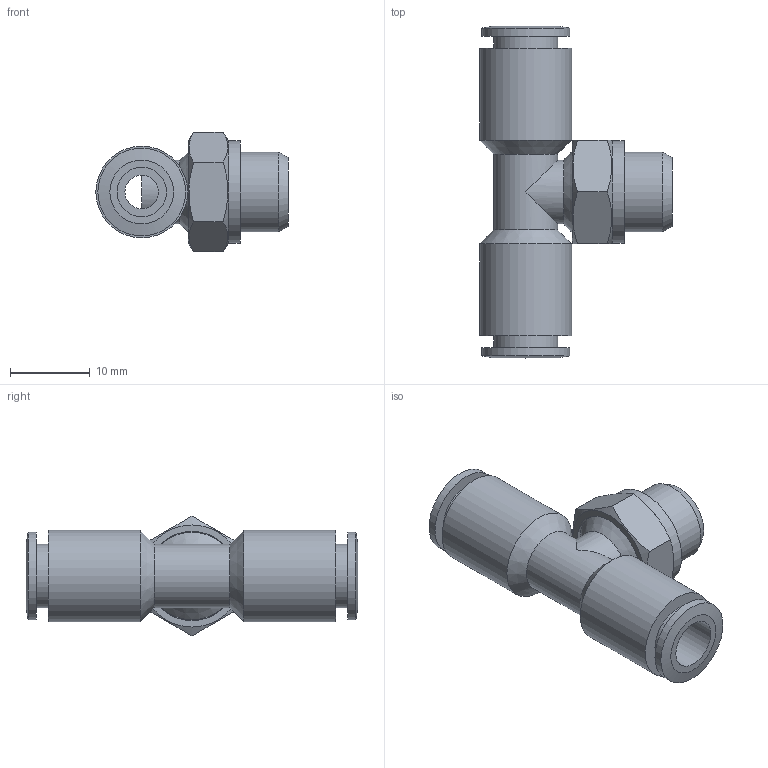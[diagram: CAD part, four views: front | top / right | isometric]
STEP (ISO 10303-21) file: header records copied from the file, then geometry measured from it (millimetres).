
FILE_DESCRIPTION((''),'2;1');
FILE_NAME('C:\Documents and Settings\rivolro1\Documenti\copia di Raccordi\PLASTICA\T20XXXX\T200618.stp','2007-10-31T15:26:35',('Rivolro1'),(''),'Autodesk Inventor 2008','Autodesk Inventor 2008','');
FILE_SCHEMA(('AUTOMOTIVE_DESIGN { 1 0 10303 214 1 1 1 1 }'));
Length unit declared in the file: millimetre
Products named in the file (1): T200618
Bounding box: 24.1 x 41.6 x 15.01 mm (x, y, z)
Volume: 3820.5 mm3; surface area: 3435.6 mm2
Topology: 1 solids, 1 shells, 45 faces, 92 edges, 59 vertices
Faces by surface type: plane 17, cylinder 16, cone 8, bspline 4
Full cylindrical faces by diameter (mm): 3.8 x1, 4.2 x1, 8 x4, 10 x1, 11 x3, 11.2 x1, 11.5 x2, 12.8 x1
Entity records: 1179 total; most frequent: CARTESIAN_POINT 284, DIRECTION 170, ORIENTED_EDGE 122, EDGE_LOOP 84, AXIS2_PLACEMENT_3D 81, EDGE_CURVE 61, VERTEX_POINT 53, FACE_OUTER_BOUND 45
